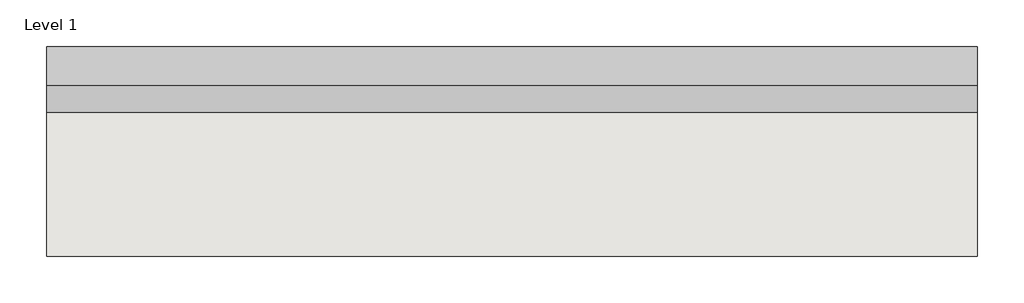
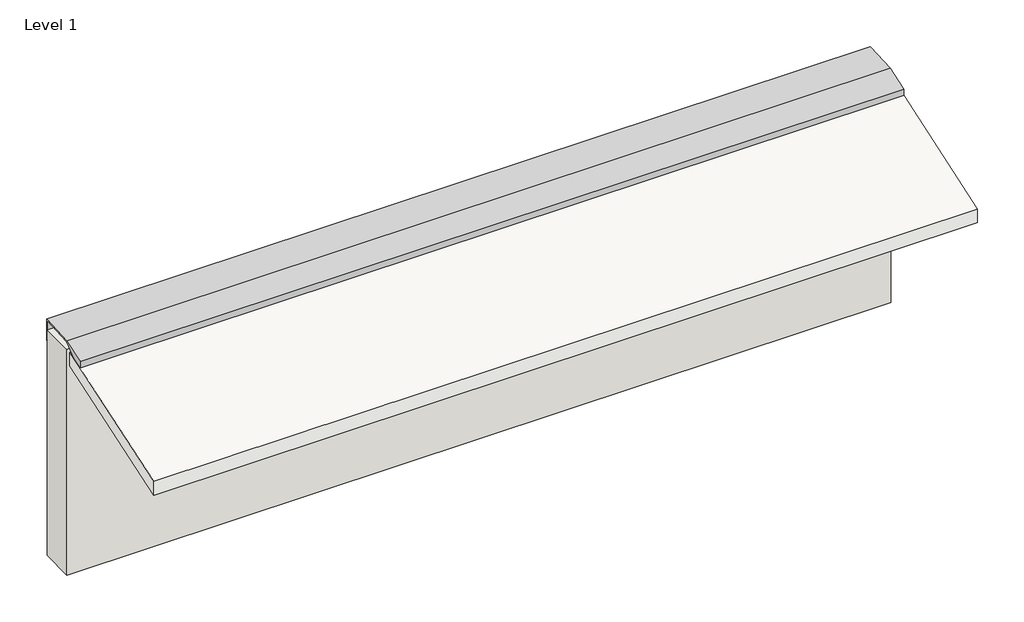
# One storey: 1 proxy, 1 roof, 1 wall.
"""IFC4 building model written with IfcOpenShell, lengths in millimetres."""

import ifcopenshell
import ifcopenshell.guid

model = None  # the IFC model being written
_history = None  # IfcOwnerHistory: only IFC2X3 demands one
_inside = {}  # id of a spatial element -> (the spatial element, [elements in it])
_under = {}  # id of a project, library or spatial element -> (it, [spatial elements below it])
_declared = {}  # id of a project -> (the project, [libraries it declares])
_typed = {}  # id of a type object -> (the type object, [elements of that type])
_made_of = {}  # id of a material, layer set ... -> (it, [elements and type objects made of it])


def new_model(schema):
    """Start an empty IFC model of exactly this schema.

    Asked for "IFC4X3", IfcOpenShell would pick the latest addendum, in which some entities
    have other attributes; the version numbers below select the first issue.
    IFC2X3 requires an IfcOwnerHistory on every rooted entity: one is made here for all.
    """
    global model, _history
    if schema == "IFC4X3":
        model = ifcopenshell.file(schema_version=(4, 3, 0, 0))
    else:
        model = ifcopenshell.file(schema=schema)
    _inside.clear()
    _under.clear()
    _declared.clear()
    _typed.clear()
    _made_of.clear()
    _history = None
    if model.schema == "IFC2X3":
        org = make("IfcOrganization", Name="unknown")
        user = make(
            "IfcPersonAndOrganization",
            ThePerson=make("IfcPerson", FamilyName="unknown"),
            TheOrganization=org,
        )
        app = make(
            "IfcApplication",
            ApplicationDeveloper=org,
            Version="unknown",
            ApplicationFullName="unknown",
            ApplicationIdentifier="unknown",
        )
        _history = make(
            "IfcOwnerHistory",
            OwningUser=user,
            OwningApplication=app,
            ChangeAction="ADDED",
            CreationDate=0,
        )
    return model


def make(cls, **values):
    """One entity of the class cls with the attributes given. An attribute that is None is left unset."""
    return model.create_entity(
        cls, **{name: value for name, value in values.items() if value is not None}
    )


def rooted(cls, **values):
    """An entity with a GlobalId (a new one), such as an element, a storey or a relation."""
    return make(cls, GlobalId=ifcopenshell.guid.new(), OwnerHistory=_history, **values)


def si_unit(unit_type, name, prefix=None):
    """IfcSIUnit, for example si_unit("LENGTHUNIT", "METRE", prefix="MILLI")."""
    return make("IfcSIUnit", UnitType=unit_type, Prefix=prefix, Name=name)


def assignment(units):
    """IfcUnitAssignment: the units of a project."""
    return None if units is None else make("IfcUnitAssignment", Units=units)


def point(xyz):
    """IfcCartesianPoint."""
    return None if xyz is None else make("IfcCartesianPoint", Coordinates=xyz)


def direction(xyz):
    """IfcDirection."""
    return None if xyz is None else make("IfcDirection", DirectionRatios=xyz)


def frame(location, z_axis=None, x_axis=None):
    """IfcAxis2Placement3D, a coordinate frame: its origin and axes. An axis left out is left unset."""
    return make(
        "IfcAxis2Placement3D",
        Location=point(location),
        Axis=direction(z_axis),
        RefDirection=direction(x_axis),
    )


def origin():
    """The frame at (0, 0, 0) with its axes left unset."""
    return frame((0.0, 0.0, 0.0))


def place(relative_to, where):
    """IfcLocalPlacement: puts the frame where relative to a parent placement (None: the world)."""
    return make(
        "IfcLocalPlacement", PlacementRelTo=relative_to, RelativePlacement=where
    )


def context(
    kind, dimensions, precision=None, world=None, true_north=None, identifier=None
):
    """IfcGeometricRepresentationContext, for example the 3D "Model" context."""
    return make(
        "IfcGeometricRepresentationContext",
        ContextIdentifier=identifier,
        ContextType=kind,
        CoordinateSpaceDimension=dimensions,
        Precision=precision,
        WorldCoordinateSystem=world,
        TrueNorth=true_north,
    )


def project(units=None, contexts=None):
    """IfcProject with its units and contexts."""
    return rooted(
        "IfcProject",
        Name="project",
        RepresentationContexts=contexts,
        UnitsInContext=assignment(units),
    )


def spatial(cls, under=None, at=None, **own):
    """A site, building, storey or space (cls), placed at a placement, below another one or the project."""
    s = rooted(cls, ObjectPlacement=at, **own)
    if under is not None:
        _under.setdefault(under.id(), (under, []))[1].append(s)
    return s


def polyline(points):
    """IfcPolyline through the points."""
    return make("IfcPolyline", Points=[point(p) for p in points])


def outline(outer, holes=None, kind="AREA"):
    """IfcArbitraryClosedProfileDef: a profile drawn as a closed curve; with holes, ...WithVoids."""
    if holes is None:
        return make("IfcArbitraryClosedProfileDef", ProfileType=kind, OuterCurve=outer)
    return make(
        "IfcArbitraryProfileDefWithVoids",
        ProfileType=kind,
        OuterCurve=outer,
        InnerCurves=holes,
    )


def extrude(swept, where, along, depth):
    """IfcExtrudedAreaSolid: the profile swept, set in the frame where, extruded along a direction by depth."""
    return make(
        "IfcExtrudedAreaSolid",
        SweptArea=swept,
        Position=where,
        ExtrudedDirection=direction(along),
        Depth=depth,
    )


def shape(context_of_items, identifier, shape_type, items):
    """IfcShapeRepresentation: the items that make up one representation, for example the "Body"."""
    return make(
        "IfcShapeRepresentation",
        ContextOfItems=context_of_items,
        RepresentationIdentifier=identifier,
        RepresentationType=shape_type,
        Items=items,
    )


def source(mapping_origin, context_of_items, identifier, shape_type, items):
    """IfcRepresentationMap: a shape defined once, which mapped items show again and again."""
    return make(
        "IfcRepresentationMap",
        MappingOrigin=mapping_origin,
        MappedRepresentation=shape(context_of_items, identifier, shape_type, items),
    )


def transform(
    local_origin,
    x_axis=None,
    y_axis=None,
    z_axis=None,
    scale=None,
    scale2=None,
    scale3=None,
    uniform=True,
):
    """IfcCartesianTransformationOperator3D, or its non-uniform kind. x_axis, y_axis, z_axis: its Axis1, 2, 3."""
    if uniform:
        return make(
            "IfcCartesianTransformationOperator3D",
            Axis1=direction(x_axis),
            Axis2=direction(y_axis),
            LocalOrigin=point(local_origin),
            Scale=scale,
            Axis3=direction(z_axis),
        )
    return make(
        "IfcCartesianTransformationOperator3DnonUniform",
        Axis1=direction(x_axis),
        Axis2=direction(y_axis),
        LocalOrigin=point(local_origin),
        Scale=scale,
        Axis3=direction(z_axis),
        Scale2=scale2,
        Scale3=scale3,
    )


def mapped(mapping_source, mapping_target):
    """IfcMappedItem: shows the shape of a source again, moved by a transform."""
    return make(
        "IfcMappedItem", MappingSource=mapping_source, MappingTarget=mapping_target
    )


def made_of(thing, what):
    """Note that an element or type object is made of a material, layer set ...; save() writes the relation."""
    if what is not None:
        _made_of.setdefault(what.id(), (what, []))[1].append(thing)
    return thing


def element(
    cls,
    number,
    at=None,
    inside=None,
    cuts=None,
    type_object=None,
    material=None,
    context=None,
    identifier="Body",
    shape_type=None,
    held_by="IfcProductDefinitionShape",
    body=None,
    shapes=None,
    **own,
):
    """One element of the class cls, such as IfcWall. Its Tag is "e" and its number.

    at: its placement. inside: the storey or other place that contains it. cuts: it is an
    opening in that element (IfcRelVoidsElement). A single representation is given by context,
    identifier, shape_type and body (its items); several are given by shapes. held_by: the class
    of the entity that holds the representations. save() writes the other relations.
    """
    e = rooted(cls, Tag="e%d" % number, ObjectPlacement=at, **own)
    if body is not None:
        shapes = [shape(context, identifier, shape_type, body)]
    if shapes is not None:
        e.Representation = make(held_by, Representations=shapes)
    if inside is not None:
        _inside.setdefault(inside.id(), (inside, []))[1].append(e)
    if cuts is not None:
        rooted(
            "IfcRelVoidsElement", RelatingBuildingElement=cuts, RelatedOpeningElement=e
        )
    if type_object is not None:
        _typed.setdefault(type_object.id(), (type_object, []))[1].append(e)
    return made_of(e, material)


def aggregate(whole, parts):
    """IfcRelAggregates: a whole, such as a stair, and the parts it consists of."""
    return rooted("IfcRelAggregates", RelatingObject=whole, RelatedObjects=parts)


def save(model, path):
    """Write the relations noted so far, then the file.

    IfcRelAggregates (storeys below a building ...), IfcRelContainedInSpatialStructure (elements
    in a storey), IfcRelDefinesByType, IfcRelAssociatesMaterial and IfcRelDeclares: one each for
    every whole, place, type object, material and project.
    """
    for whole, parts in _under.values():
        aggregate(whole, parts)
    for where, things in _inside.values():
        rooted(
            "IfcRelContainedInSpatialStructure",
            RelatedElements=things,
            RelatingStructure=where,
        )
    for kind, things in _typed.values():
        rooted("IfcRelDefinesByType", RelatedObjects=things, RelatingType=kind)
    for what, things in _made_of.values():
        rooted("IfcRelAssociatesMaterial", RelatedObjects=things, RelatingMaterial=what)
    for by, libraries in _declared.values():
        rooted("IfcRelDeclares", RelatingContext=by, RelatedDefinitions=libraries)
    model.write(path)


def specialty_equipment_01184899(model_context):
    return source(origin(), model_context, "Body", "SweptSolid", [
        extrude(outline(polyline([(214.5871375, 48.0893421), (214.5871375, 22.3629243), (172.8254077, 36.2794931), (130.3696485, 72.9920189), (4.2433875, 80.5196917), (4.2433875, 4.4449775), (0.0, 0.0), (0.0, 84.2804439), (128.9741656, 76.6187834), (214.5871375, 48.0893421)])), frame((0.0, 0.0, 0.0), z_axis=(1.0, 0.0, 0.0), x_axis=(0.0, 1.0, 0.0)), (0.0, 0.0, 1.0), 3048.0),
    ])


model = new_model("IFC4")

# Units and contexts
model_context = context("Model", 3, world=origin())
ifc_project = project(units=[si_unit("LENGTHUNIT", "METRE", prefix="MILLI")], contexts=[model_context])

# Site, building, storey
site = spatial("IfcSite", under=ifc_project)
building = spatial("IfcBuilding", under=site)
storey = spatial("IfcBuildingStorey", under=building, Name="Level 1", Elevation=0.0)

# Proxy
placement = place(None, origin())
specialty_equipment_shape = specialty_equipment_01184899(model_context)
element("IfcBuildingElementProxy", 1, Name="Roof_Vent-Metal_Era-Hi_Perf_Ridge_Vent_Sloped_Roof_Meets_Vertical_Wall : Roof_Vent-Metal_Era-Hi_Perf_Ridge_Vent_Sloped_Roof_Meets_Vertical_Wall", ObjectType="Roof_Vent-Metal_Era-Hi_Perf_Ridge_Vent_Sloped_Roof_Meets_Vertical_Wall : Roof_Vent-Metal_Era-Hi_Perf_Ridge_Vent_Sloped_Roof_Meets_Vertical_Wall", at=placement, inside=storey, context=model_context, shape_type="MappedRepresentation", body=[
    mapped(specialty_equipment_shape, transform((-1267.9757126, 2075.956252, -26.3574173), x_axis=(-1.0, 0.0, 0.0), y_axis=(0.0, -1.0, 0.0), z_axis=(0.0, 0.0, 1.0))),
])

# Roof
element("IfcRoof", 2, ObjectType="Generic - Custom", at=placement, inside=storey, context=model_context, shape_type="SweptSolid", body=[
    extrude(outline(polyline([(1389.141552, -161.4076883), (1926.7486656, 17.7946829), (1926.7486656, -35.7532188), (1389.141552, -214.95559), (1389.141552, -161.4076883)])), frame((-4315.9757126, 0.0, 0.0), z_axis=(1.0, 0.0, 0.0), x_axis=(0.0, 1.0, 0.0)), (0.0, 0.0, 1.0), 3048.0),
])

# Wall
element("IfcWall", 3, ObjectType="Generic - 5\"", at=placement, inside=storey, context=model_context, shape_type="SweptSolid", body=[
    extrude(outline(polyline([(-1267.9757126, 1944.9452068), (-4315.9757126, 1944.9452068), (-4315.9757126, 2071.9452068), (-1267.9757126, 2071.9452068), (-1267.9757126, 1944.9452068)])), frame((0.0, 0.0, -864.9535799), z_axis=(0.0, 0.0, 1.0), x_axis=(1.0, 0.0, 0.0)), (0.0, 0.0, 1.0), 882.7482628),
])

save(model, "model.ifc")
